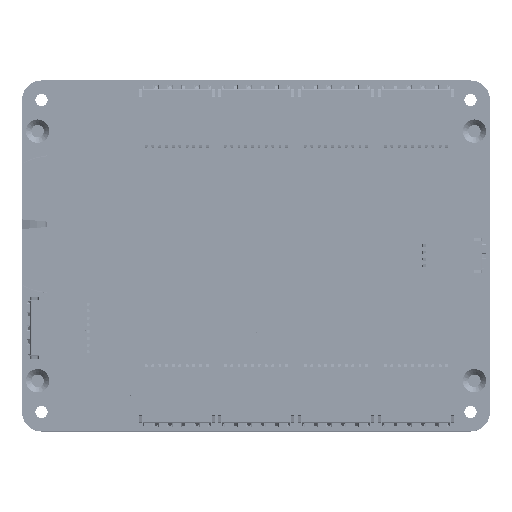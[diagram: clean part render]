
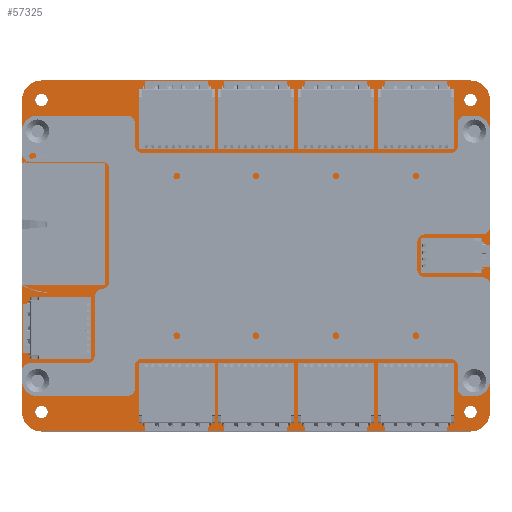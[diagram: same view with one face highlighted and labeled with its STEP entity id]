
A CAD part, top view. The second image highlights one B-rep face of the part: STEP entity #57325.
In plain terms, the highlighted planar face has unit normal (0, 0, 1).
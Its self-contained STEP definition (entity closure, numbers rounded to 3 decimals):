
#476=FACE_BOUND('',#7808,.T.);
#477=FACE_BOUND('',#7809,.T.);
#478=FACE_BOUND('',#7810,.T.);
#479=FACE_BOUND('',#7811,.T.);
#2512=PLANE('',#60431);
#4899=FACE_OUTER_BOUND('',#7807,.T.);
#7807=EDGE_LOOP('',(#39551,#39552,#39553,#39554,#39555,#39556,#39557,#39558));
#7808=EDGE_LOOP('',(#39559));
#7809=EDGE_LOOP('',(#39560));
#7810=EDGE_LOOP('',(#39561));
#7811=EDGE_LOOP('',(#39562));
#12751=LINE('',#83451,#17949);
#12752=LINE('',#83455,#17950);
#12753=LINE('',#83459,#17951);
#12754=LINE('',#83462,#17952);
#17949=VECTOR('',#66401,10.);
#17950=VECTOR('',#66404,10.);
#17951=VECTOR('',#66407,10.);
#17952=VECTOR('',#66410,10.);
#23142=CIRCLE('',#60412,1.6);
#23146=CIRCLE('',#60418,1.6);
#23150=CIRCLE('',#60424,1.6);
#23154=CIRCLE('',#60430,1.6);
#23155=CIRCLE('',#60432,5.);
#23156=CIRCLE('',#60433,5.);
#23157=CIRCLE('',#60434,5.);
#23158=CIRCLE('',#60435,5.);
#25932=VERTEX_POINT('',#83407);
#25936=VERTEX_POINT('',#83419);
#25940=VERTEX_POINT('',#83431);
#25944=VERTEX_POINT('',#83443);
#25945=VERTEX_POINT('',#83447);
#25946=VERTEX_POINT('',#83448);
#25947=VERTEX_POINT('',#83450);
#25948=VERTEX_POINT('',#83452);
#25949=VERTEX_POINT('',#83454);
#25950=VERTEX_POINT('',#83456);
#25951=VERTEX_POINT('',#83458);
#25952=VERTEX_POINT('',#83460);
#31334=EDGE_CURVE('',#25932,#25932,#23142,.T.);
#31340=EDGE_CURVE('',#25936,#25936,#23146,.T.);
#31346=EDGE_CURVE('',#25940,#25940,#23150,.T.);
#31352=EDGE_CURVE('',#25944,#25944,#23154,.T.);
#31353=EDGE_CURVE('',#25945,#25946,#23155,.T.);
#31354=EDGE_CURVE('',#25946,#25947,#12751,.T.);
#31355=EDGE_CURVE('',#25947,#25948,#23156,.T.);
#31356=EDGE_CURVE('',#25948,#25949,#12752,.T.);
#31357=EDGE_CURVE('',#25949,#25950,#23157,.T.);
#31358=EDGE_CURVE('',#25950,#25951,#12753,.T.);
#31359=EDGE_CURVE('',#25951,#25952,#23158,.T.);
#31360=EDGE_CURVE('',#25952,#25945,#12754,.T.);
#39551=ORIENTED_EDGE('',*,*,#31353,.T.);
#39552=ORIENTED_EDGE('',*,*,#31354,.T.);
#39553=ORIENTED_EDGE('',*,*,#31355,.T.);
#39554=ORIENTED_EDGE('',*,*,#31356,.T.);
#39555=ORIENTED_EDGE('',*,*,#31357,.T.);
#39556=ORIENTED_EDGE('',*,*,#31358,.T.);
#39557=ORIENTED_EDGE('',*,*,#31359,.T.);
#39558=ORIENTED_EDGE('',*,*,#31360,.T.);
#39559=ORIENTED_EDGE('',*,*,#31352,.T.);
#39560=ORIENTED_EDGE('',*,*,#31346,.T.);
#39561=ORIENTED_EDGE('',*,*,#31340,.T.);
#39562=ORIENTED_EDGE('',*,*,#31334,.T.);
#57325=ADVANCED_FACE('',(#4899,#476,#477,#478,#479),#2512,.T.);
#60412=AXIS2_PLACEMENT_3D('',#83409,#66353,#66354);
#60418=AXIS2_PLACEMENT_3D('',#83421,#66367,#66368);
#60424=AXIS2_PLACEMENT_3D('',#83433,#66381,#66382);
#60430=AXIS2_PLACEMENT_3D('',#83445,#66395,#66396);
#60431=AXIS2_PLACEMENT_3D('',#83446,#66397,#66398);
#60432=AXIS2_PLACEMENT_3D('',#83449,#66399,#66400);
#60433=AXIS2_PLACEMENT_3D('',#83453,#66402,#66403);
#60434=AXIS2_PLACEMENT_3D('',#83457,#66405,#66406);
#60435=AXIS2_PLACEMENT_3D('',#83461,#66408,#66409);
#66353=DIRECTION('center_axis',(0.,0.,-1.));
#66354=DIRECTION('ref_axis',(1.,0.,0.));
#66367=DIRECTION('center_axis',(0.,0.,-1.));
#66368=DIRECTION('ref_axis',(1.,0.,0.));
#66381=DIRECTION('center_axis',(0.,0.,-1.));
#66382=DIRECTION('ref_axis',(1.,0.,0.));
#66395=DIRECTION('center_axis',(0.,0.,-1.));
#66396=DIRECTION('ref_axis',(1.,0.,0.));
#66397=DIRECTION('center_axis',(0.,0.,1.));
#66398=DIRECTION('ref_axis',(1.,0.,0.));
#66399=DIRECTION('center_axis',(0.,0.,1.));
#66400=DIRECTION('ref_axis',(0.,-1.,0.));
#66401=DIRECTION('',(0.,1.,0.));
#66402=DIRECTION('center_axis',(0.,0.,1.));
#66403=DIRECTION('ref_axis',(1.,0.,0.));
#66404=DIRECTION('',(-1.,0.,0.));
#66405=DIRECTION('center_axis',(0.,0.,1.));
#66406=DIRECTION('ref_axis',(0.,1.,0.));
#66407=DIRECTION('',(0.,-1.,0.));
#66408=DIRECTION('center_axis',(0.,0.,1.));
#66409=DIRECTION('ref_axis',(-1.,0.,0.));
#66410=DIRECTION('',(1.,0.,0.));
#83407=CARTESIAN_POINT('',(3.4,5.,1.613));
#83409=CARTESIAN_POINT('Origin',(5.,5.,1.613));
#83419=CARTESIAN_POINT('',(113.4,85.,1.613));
#83421=CARTESIAN_POINT('Origin',(115.,85.,1.613));
#83431=CARTESIAN_POINT('',(3.4,85.,1.613));
#83433=CARTESIAN_POINT('Origin',(5.,85.,1.613));
#83443=CARTESIAN_POINT('',(113.4,5.,1.613));
#83445=CARTESIAN_POINT('Origin',(115.,5.,1.613));
#83446=CARTESIAN_POINT('Origin',(60.,45.,1.613));
#83447=CARTESIAN_POINT('',(115.,0.,1.613));
#83448=CARTESIAN_POINT('',(120.,5.,1.613));
#83449=CARTESIAN_POINT('Origin',(115.,5.,1.613));
#83450=CARTESIAN_POINT('',(120.,85.,1.613));
#83451=CARTESIAN_POINT('',(120.,5.,1.613));
#83452=CARTESIAN_POINT('',(115.,90.,1.613));
#83453=CARTESIAN_POINT('Origin',(115.,85.,1.613));
#83454=CARTESIAN_POINT('',(5.,90.,1.613));
#83455=CARTESIAN_POINT('',(115.,90.,1.613));
#83456=CARTESIAN_POINT('',(0.,85.,1.613));
#83457=CARTESIAN_POINT('Origin',(5.,85.,1.613));
#83458=CARTESIAN_POINT('',(0.,5.,1.613));
#83459=CARTESIAN_POINT('',(0.,85.,1.613));
#83460=CARTESIAN_POINT('',(5.,0.,1.613));
#83461=CARTESIAN_POINT('Origin',(5.,5.,1.613));
#83462=CARTESIAN_POINT('',(5.,0.,1.613));
